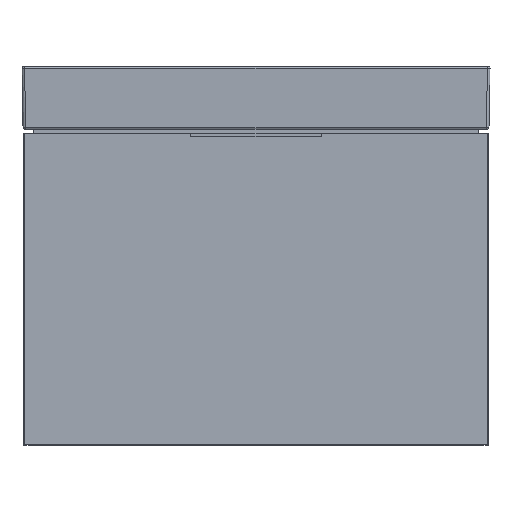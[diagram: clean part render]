
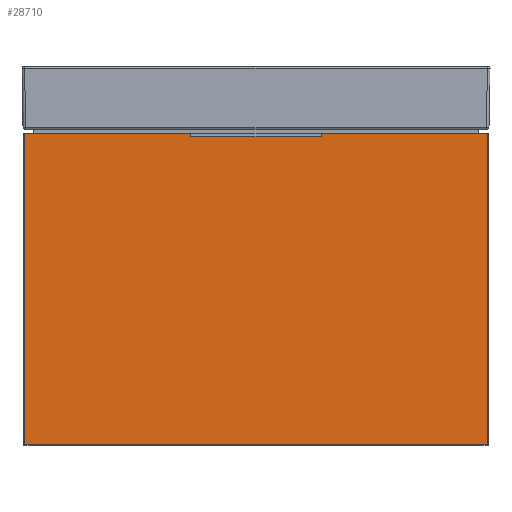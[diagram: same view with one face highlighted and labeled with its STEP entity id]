
A CAD part, front view. The second image highlights one B-rep face of the part: STEP entity #28710.
In plain terms, the highlighted planar face has unit normal (0, -1, 0).
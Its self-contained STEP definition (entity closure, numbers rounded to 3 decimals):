
#782=PLANE('',#32705);
#2602=FACE_OUTER_BOUND('',#3953,.T.);
#3953=EDGE_LOOP('',(#24394,#24395,#24396,#24397,#24398,#24399,#24400,#24401));
#5629=LINE('',#115784,#7889);
#5633=LINE('',#115792,#7893);
#5636=LINE('',#115798,#7896);
#5639=LINE('',#115804,#7899);
#5642=LINE('',#115810,#7902);
#5645=LINE('',#115816,#7905);
#5648=LINE('',#115822,#7908);
#5651=LINE('',#115827,#7911);
#7889=VECTOR('',#37649,599.);
#7893=VECTOR('',#37655,320.5);
#7896=VECTOR('',#37660,7.);
#7899=VECTOR('',#37665,250.);
#7902=VECTOR('',#37670,7.);
#7905=VECTOR('',#37675,320.5);
#7908=VECTOR('',#37680,599.);
#7911=VECTOR('',#37685,891.);
#14956=VERTEX_POINT('',#115782);
#14957=VERTEX_POINT('',#115783);
#14960=VERTEX_POINT('',#115791);
#14962=VERTEX_POINT('',#115797);
#14964=VERTEX_POINT('',#115803);
#14966=VERTEX_POINT('',#115809);
#14968=VERTEX_POINT('',#115815);
#14970=VERTEX_POINT('',#115821);
#19392=EDGE_CURVE('',#14956,#14957,#5629,.T.);
#19396=EDGE_CURVE('',#14957,#14960,#5633,.T.);
#19399=EDGE_CURVE('',#14960,#14962,#5636,.T.);
#19402=EDGE_CURVE('',#14962,#14964,#5639,.T.);
#19405=EDGE_CURVE('',#14964,#14966,#5642,.T.);
#19408=EDGE_CURVE('',#14966,#14968,#5645,.T.);
#19411=EDGE_CURVE('',#14968,#14970,#5648,.T.);
#19414=EDGE_CURVE('',#14970,#14956,#5651,.T.);
#24394=ORIENTED_EDGE('',*,*,#19414,.T.);
#24395=ORIENTED_EDGE('',*,*,#19392,.T.);
#24396=ORIENTED_EDGE('',*,*,#19396,.T.);
#24397=ORIENTED_EDGE('',*,*,#19399,.T.);
#24398=ORIENTED_EDGE('',*,*,#19402,.T.);
#24399=ORIENTED_EDGE('',*,*,#19405,.T.);
#24400=ORIENTED_EDGE('',*,*,#19408,.T.);
#24401=ORIENTED_EDGE('',*,*,#19411,.T.);
#28710=ADVANCED_FACE('',(#2602),#782,.F.);
#32705=AXIS2_PLACEMENT_3D('',#115829,#37687,#37688);
#37649=DIRECTION('',(0.,0.,1.));
#37655=DIRECTION('',(-1.,0.,0.));
#37660=DIRECTION('',(0.,0.,-1.));
#37665=DIRECTION('',(-1.,0.,0.));
#37670=DIRECTION('',(0.,0.,1.));
#37675=DIRECTION('',(-1.,0.,0.));
#37680=DIRECTION('',(0.,0.,-1.));
#37685=DIRECTION('',(1.,0.,0.));
#37687=DIRECTION('center_axis',(0.,1.,0.));
#37688=DIRECTION('ref_axis',(0.,0.,-1.));
#115782=CARTESIAN_POINT('',(3135.127,1430.665,1026.176));
#115783=CARTESIAN_POINT('',(3135.127,1430.665,1625.176));
#115784=CARTESIAN_POINT('',(3135.127,1430.665,1026.176));
#115791=CARTESIAN_POINT('',(2814.627,1430.665,1625.176));
#115792=CARTESIAN_POINT('',(3135.127,1430.665,1625.176));
#115797=CARTESIAN_POINT('',(2814.627,1430.665,1618.176));
#115798=CARTESIAN_POINT('',(2814.627,1430.665,1625.176));
#115803=CARTESIAN_POINT('',(2564.627,1430.665,1618.176));
#115804=CARTESIAN_POINT('',(2814.627,1430.665,1618.176));
#115809=CARTESIAN_POINT('',(2564.627,1430.665,1625.176));
#115810=CARTESIAN_POINT('',(2564.627,1430.665,1618.176));
#115815=CARTESIAN_POINT('',(2244.127,1430.665,1625.176));
#115816=CARTESIAN_POINT('',(2564.627,1430.665,1625.176));
#115821=CARTESIAN_POINT('',(2244.127,1430.665,1026.176));
#115822=CARTESIAN_POINT('',(2244.127,1430.665,1625.176));
#115827=CARTESIAN_POINT('',(2244.127,1430.665,1026.176));
#115829=CARTESIAN_POINT('Origin',(2318.627,1430.665,1325.676));
